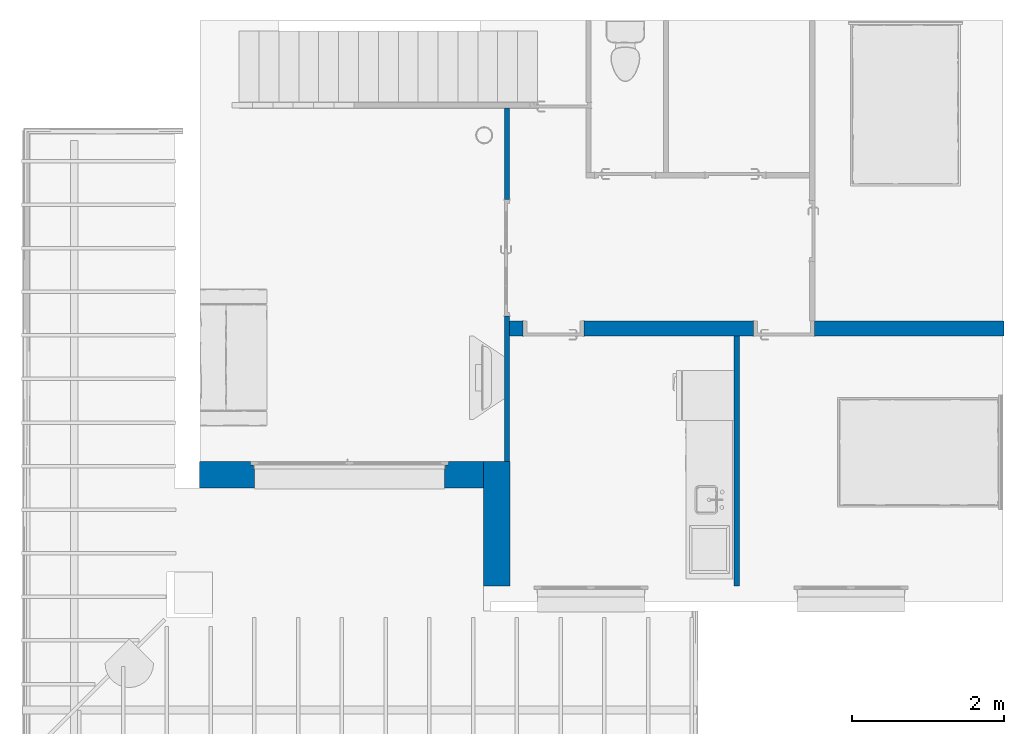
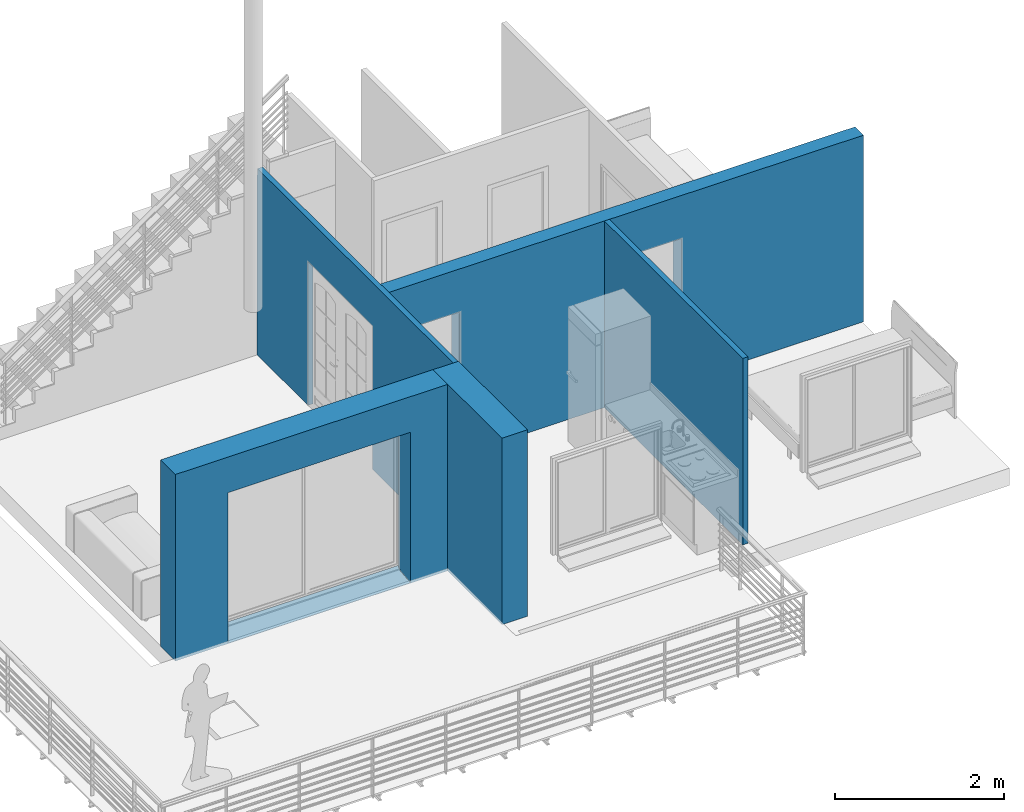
# One storey, part 2 of 15: 5 walls, 4 openings.
"""IFC2X3 building model written with IfcOpenShell, lengths in metres."""

from ifc_helpers import new_model, entity, si_unit, converted_unit, derived_unit, direction, frame, frame_2d, origin, place, context, subcontext, project, spatial, polyline, rectangle, extrude, clip, bounded_halfspace, faceted_brep, material, layer, layer_set, layer_usage, type_object, element, save


model = new_model("IFC2X3")

# Units and contexts
model_context = context("Model", 3, precision=1e-05, world=origin(), true_north=direction((6.12303176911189e-17, 1.0)))
body_context = subcontext(model_context, "Body", "Model", "MODEL_VIEW")
ifc_project = project(units=[si_unit("LENGTHUNIT", "METRE"), si_unit("AREAUNIT", "SQUARE_METRE"), si_unit("VOLUMEUNIT", "CUBIC_METRE"), converted_unit("PLANEANGLEUNIT", "DEGREE", entity("IfcRatioMeasure", 0.0174532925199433), si_unit("PLANEANGLEUNIT", "RADIAN"), dimensions=[0, 0, 0, 0, 0, 0, 0]), si_unit("MASSUNIT", "GRAM", prefix="KILO"), derived_unit("MASSDENSITYUNIT", [(si_unit("MASSUNIT", "GRAM", prefix="KILO"), 1), (si_unit("LENGTHUNIT", "METRE"), -3)]), derived_unit("MOMENTOFINERTIAUNIT", [(si_unit("LENGTHUNIT", "METRE"), 4)]), si_unit("TIMEUNIT", "SECOND"), si_unit("FREQUENCYUNIT", "HERTZ"), si_unit("THERMODYNAMICTEMPERATUREUNIT", "DEGREE_CELSIUS"), derived_unit("THERMALTRANSMITTANCEUNIT", [(si_unit("MASSUNIT", "GRAM", prefix="KILO"), 1), (si_unit("THERMODYNAMICTEMPERATUREUNIT", "KELVIN"), -1), (si_unit("TIMEUNIT", "SECOND"), -3)]), derived_unit("VOLUMETRICFLOWRATEUNIT", [(si_unit("LENGTHUNIT", "METRE"), 3), (si_unit("TIMEUNIT", "SECOND"), -1)]), si_unit("ELECTRICCURRENTUNIT", "AMPERE"), si_unit("ELECTRICVOLTAGEUNIT", "VOLT"), si_unit("POWERUNIT", "WATT"), si_unit("FORCEUNIT", "NEWTON", prefix="KILO"), si_unit("ILLUMINANCEUNIT", "LUX"), si_unit("LUMINOUSFLUXUNIT", "LUMEN"), si_unit("LUMINOUSINTENSITYUNIT", "CANDELA"), derived_unit("USERDEFINED", [(si_unit("MASSUNIT", "GRAM", prefix="KILO"), -1), (si_unit("LENGTHUNIT", "METRE"), -2), (si_unit("TIMEUNIT", "SECOND"), 3), (si_unit("LUMINOUSFLUXUNIT", "LUMEN"), 1)]), derived_unit("LINEARVELOCITYUNIT", [(si_unit("LENGTHUNIT", "METRE"), 1), (si_unit("TIMEUNIT", "SECOND"), -1)]), si_unit("PRESSUREUNIT", "PASCAL"), derived_unit("USERDEFINED", [(si_unit("LENGTHUNIT", "METRE"), -2), (si_unit("MASSUNIT", "GRAM", prefix="KILO"), 1), (si_unit("TIMEUNIT", "SECOND"), -2)]), derived_unit("LINEARFORCEUNIT", [(si_unit("MASSUNIT", "GRAM", prefix="KILO"), 1), (si_unit("LENGTHUNIT", "METRE"), 1), (si_unit("TIMEUNIT", "SECOND"), -2), (si_unit("LENGTHUNIT", "METRE"), -1)]), derived_unit("PLANARFORCEUNIT", [(si_unit("MASSUNIT", "GRAM", prefix="KILO"), 1), (si_unit("LENGTHUNIT", "METRE"), 1), (si_unit("TIMEUNIT", "SECOND"), -2), (si_unit("LENGTHUNIT", "METRE"), -2)])], contexts=[model_context])

# Site, building, storey
site_placement = place(None, origin())
site = spatial("IfcSite", under=ifc_project, at=site_placement, Name="Surface", CompositionType="ELEMENT")
building_placement = place(site_placement, origin())
building = spatial("IfcBuilding", under=site, at=building_placement, CompositionType="ELEMENT")
storey_placement = place(building_placement, frame((0.0, 0.0, 2.65)))
storey = spatial("IfcBuildingStorey", under=building, at=storey_placement, Name="Niveau étage", CompositionType="ELEMENT", Elevation=2.65)

# Wall
ifc_material_1 = material(Name="Maçonnerie - Isolant")
ifc_layer_1 = layer(ifc_material_1, 0.03)
ifc_material_2 = material(Name="Blocs béton manufacturés")
ifc_layer_2 = layer(ifc_material_2, 0.3)
ifc_layer_3 = layer(ifc_material_1, 0.02)
ifc_layer_set_1 = layer_set([ifc_layer_1, ifc_layer_2, ifc_layer_3], Name="Mur de base:Ext. Parpaing 35")
ifc_layer_usage_1 = layer_usage(ifc_layer_set_1, "AXIS2", "NEGATIVE", 0.175)
wall_type_1 = type_object("IfcWallType", Name="Mur de base:Ext. Parpaing 35", PredefinedType="STANDARD", material=ifc_layer_set_1)
wall_1_placement = place(storey_placement, frame((5.78781713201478, -0.425741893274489, 0.0), z_axis=(0.0, 0.0, 1.0), x_axis=(0.0, 1.0, 0.0)))
element("IfcWallStandardCase", 1, at=wall_1_placement, inside=storey, type_object=wall_type_1, material=ifc_layer_usage_1, Name="Mur de base:Ext. Parpaing 35", ObjectType="Mur de base:Ext. Parpaing 35", context=body_context, shape_type="Clipping", body=[
    clip(extrude(rectangle(XDim=1.63547673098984, YDim=0.350000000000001, at=frame_2d((0.817738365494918, -5.55111512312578e-17), x_axis=(-1.0, 0.0))), origin(), (0.0, 0.0, 1.0), 2.7), bounded_halfspace(frame((0.0, -0.174999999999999, 2.7), z_axis=(0.0, 0.0, -1.0), x_axis=(0.0, 1.0, 0.0)), True, frame((0.0, -0.174999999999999, 2.7)), polyline([(0.0, 0.0), (1.63547673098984, 0.0), (1.63547673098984, 0.00342105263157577), (1.63547673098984, 0.0734210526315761), (1.63547673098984, 0.349999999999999), (1.28547673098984, 0.349999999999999), (0.0, 0.349999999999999), (0.0, 0.0)]))),
])

# Wall, opening
ifc_layer_usage_2 = layer_usage(ifc_layer_set_1, "AXIS2", "NEGATIVE", 0.175)
wall_2_placement = place(storey_placement, frame((5.61281713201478, 1.03473483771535, 0.0), z_axis=(0.0, 0.0, 1.0), x_axis=(-1.0, 0.0, 0.0)))
wall_2 = element("IfcWallStandardCase", 2, at=wall_2_placement, inside=storey, type_object=wall_type_1, material=ifc_layer_usage_2, Name="Mur de base:Ext. Parpaing 35", ObjectType="Mur de base:Ext. Parpaing 35", context=body_context, shape_type="Clipping", body=[
    clip(extrude(rectangle(XDim=3.72842105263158, YDim=0.35, at=frame_2d((1.86421052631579, -4.16333634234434e-17), x_axis=(-1.0, 0.0))), origin(), (0.0, 0.0, 1.0), 2.7), bounded_halfspace(frame((0.0, -0.175, 2.7), z_axis=(0.0, 0.0, -1.0), x_axis=(1.0, 0.0, 0.0)), True, frame((0.0, -0.175, 2.7)), polyline([(0.0, 0.0), (3.72842105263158, 0.0), (3.72842105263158, 0.35), (0.0, 0.35), (0.0, 0.0)]))),
])
opening_1_placement = place(wall_2_placement, frame((3.05842105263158, 0.500000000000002, 0.0), z_axis=(0.0, 0.0, 1.0), x_axis=(-1.0, 0.0, 0.0)))
element("IfcOpeningElement", 3, at=opening_1_placement, cuts=wall_2, Name="Mur de base:Ext. Parpaing 35", ObjectType="Opening", context=body_context, shape_type="Brep", body=[
    faceted_brep([(2.55, 0.594999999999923, 0.0350000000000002), (2.55, 0.575, 0.0350000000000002), (2.55, 0.575, 2.185), (2.55, 0.0, 2.185), (2.55, 0.0, 0.0), (2.55, 0.261997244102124, 0.0), (0.0500000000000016, 1.0, 0.0350000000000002), (0.0500000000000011, 0.675000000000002, 0.0350000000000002), (0.0500000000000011, 0.675000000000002, 2.185), (0.0500000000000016, 1.0, 2.185), (2.55, 1.0, 0.0350000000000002), (2.55, 0.675000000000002, 0.0350000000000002), (2.6, 0.675000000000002, 0.0350000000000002), (2.6, 0.625000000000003, 0.0350000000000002), (2.56, 0.625000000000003, 0.0350000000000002), (2.56, 0.575, 0.0350000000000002), (0.0500000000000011, 0.594999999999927, 0.0349999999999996), (0.0500000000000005, 0.574999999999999, 0.0350000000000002), (0.0400000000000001, 0.574999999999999, 0.0350000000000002), (0.0400000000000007, 0.625000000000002, 0.0350000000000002), (0.0, 0.625000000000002, 0.0350000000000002), (0.0, 0.675000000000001, 0.0350000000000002), (2.55, 1.0, 2.185), (0.0500000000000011, 0.574999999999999, 2.185), (0.05, 0.0, 2.185), (0.05, 0.0, 0.0), (0.05, 0.261997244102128, 0.0), (2.6, 0.675000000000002, 2.235), (2.6, 0.625000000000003, 2.235), (0.0, 0.625000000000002, 2.235), (0.0399999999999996, 0.625000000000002, 2.195), (2.56, 0.625000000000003, 2.195), (2.56, 0.575, 2.195), (0.0399999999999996, 0.574999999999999, 2.195), (2.55, 0.675000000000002, 2.185), (0.0, 0.675000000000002, 2.235)], [[[0, 1, 2, 3, 4, 5]], [[6, 7, 8, 9]], [[10, 11, 12, 13, 14, 15, 1, 0, 16, 17, 18, 19, 20, 21, 7, 6]], [[10, 6, 9, 22]], [[3, 2, 23, 24]], [[3, 24, 25, 4]], [[4, 25, 26, 5]], [[5, 26, 16, 0]], [[12, 27, 28, 13]], [[13, 28, 29, 20, 19, 30, 31, 14]], [[14, 31, 32, 15]], [[15, 32, 33, 18, 17, 23, 2, 1]], [[11, 34, 8, 7, 21, 35, 27, 12]], [[27, 35, 29, 28]], [[30, 33, 32, 31]], [[29, 35, 21, 20]], [[19, 18, 33, 30]], [[9, 8, 34, 22]], [[24, 23, 17, 16, 26, 25]], [[22, 34, 11, 10]]]),
])

# Wall
ifc_material_3 = material(Name="Mur par défaut")
ifc_layer_4 = layer(ifc_material_3, 0.07)
ifc_layer_set_2 = layer_set([ifc_layer_4], Name="Mur de base:Int. Plâtre 7cm")
ifc_layer_usage_3 = layer_usage(ifc_layer_set_2, "AXIS2", "NEGATIVE", 0.035)
wall_type_2 = type_object("IfcWallType", Name="Mur de base:Int. Plâtre 7cm", PredefinedType="STANDARD", material=ifc_layer_set_2)
wall_3_placement = place(storey_placement, frame((8.94439607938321, 2.85425810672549, 0.0), z_axis=(0.0, 0.0, 1.0), x_axis=(0.0, -1.0, 0.0)))
element("IfcWallStandardCase", 4, at=wall_3_placement, inside=storey, type_object=wall_type_2, material=ifc_layer_usage_3, Name="Mur de base:Int. Plâtre 7cm", ObjectType="Mur de base:Int. Plâtre 7cm", context=body_context, shape_type="Clipping", body=[
    clip(extrude(rectangle(XDim=3.27999999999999, YDim=0.0699999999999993, at=frame_2d((1.64, 1.04083408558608e-17), x_axis=(-1.0, 0.0))), origin(), (0.0, 0.0, 1.0), 2.7), bounded_halfspace(frame((0.0, -0.0350000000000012, 2.7), z_axis=(0.0, 0.0, -1.0), x_axis=(0.0, -1.0, 0.0)), True, frame((0.0, -0.0350000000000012, 2.7)), polyline([(0.0, 0.0), (3.27999999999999, 0.0), (3.27999999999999, 0.0700000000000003), (0.0, 0.0700000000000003), (0.0, 0.0)]))),
])

# Wall, opening
ifc_layer_usage_4 = layer_usage(ifc_layer_set_2, "AXIS2", "NEGATIVE", 0.035)
wall_4_placement = place(storey_placement, frame((5.9243960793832, 1.20973483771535, 0.0), z_axis=(0.0, 0.0, 1.0), x_axis=(0.0, 1.0, 0.0)))
wall_4 = element("IfcWallStandardCase", 5, at=wall_4_placement, inside=storey, type_object=wall_type_2, material=ifc_layer_usage_4, Name="Mur de base:Int. Plâtre 7cm", ObjectType="Mur de base:Int. Plâtre 7cm", context=body_context, shape_type="Clipping", body=[
    clip(clip(extrude(rectangle(XDim=4.645, YDim=0.0699999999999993, at=frame_2d((2.3225, -8.32667268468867e-17), x_axis=(-1.0, 0.0))), origin(), (0.0, 0.0, 1.0), 2.7), bounded_halfspace(frame((0.0, -0.0350000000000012, 2.7), z_axis=(0.0, 0.0, -1.0), x_axis=(0.0, 1.0, 0.0)), True, frame((0.0, -0.0350000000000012, 2.7)), polyline([(0.0, 0.0), (1.64452326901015, 0.0), (1.84452326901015, 0.0), (4.63885258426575, 0.0), (4.63885258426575, 0.0700000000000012), (0.0, 0.0700000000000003), (0.0, 0.0)]))), bounded_halfspace(frame((4.63885258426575, -0.0350000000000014, 2.6), z_axis=(0.0, 0.0, 1.0), x_axis=(0.0, 1.0, 0.0)), False, frame((4.63885258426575, -0.0350000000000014, 2.6)), polyline([(0.0, 0.0), (0.00614741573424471, 0.0), (0.00614741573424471, 0.0700000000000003), (0.0, 0.0700000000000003), (0.0, 0.0)]))),
])
opening_2_placement = place(wall_4_placement, frame((1.90952326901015, -0.0350000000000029, 0.0)))
element("IfcOpeningElement", 6, at=opening_2_placement, cuts=wall_4, Name="Int. Double vitrée:Cintré 2x4 - 1.46 m x 2.04 m:1", ObjectType="Opening", context=body_context, shape_type="SweptSolid", body=[
    extrude(rectangle(XDim=2.07500000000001, YDim=1.53, at=frame_2d((1.03750000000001, 0.764999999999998), x_axis=(1.0, 0.0))), frame((0.0, 0.0, 0.0), z_axis=(0.0, 1.0, 0.0), x_axis=(0.0, 0.0, 1.0)), (0.0, 0.0, 1.0), 0.07),
])

# Wall, openings
ifc_layer_5 = layer(ifc_material_3, 0.2)
ifc_layer_set_3 = layer_set([ifc_layer_5], Name="Mur de base:Générique - Ext. 200 mm")
ifc_layer_usage_5 = layer_usage(ifc_layer_set_3, "AXIS2", "NEGATIVE", 0.1)
wall_type_3 = type_object("IfcWallType", Name="Mur de base:Générique - Ext. 200 mm", PredefinedType="STANDARD", material=ifc_layer_set_3)
wall_5_placement = place(storey_placement, frame((5.95939607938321, 2.9542581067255, 0.0)))
wall_5 = element("IfcWallStandardCase", 7, at=wall_5_placement, inside=storey, type_object=wall_type_3, material=ifc_layer_usage_5, Name="Mur de base:Générique - Ext. 200 mm", ObjectType="Mur de base:Générique - Ext. 200 mm", context=body_context, shape_type="Clipping", body=[
    clip(extrude(rectangle(XDim=6.495, YDim=0.2, at=frame_2d((3.2475, -7.63278329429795e-17), x_axis=(-1.0, 0.0))), origin(), (0.0, 0.0, 1.0), 2.7), bounded_halfspace(frame((0.0, -0.1, 2.7), z_axis=(0.0, 0.0, -1.0), x_axis=(-1.0, 0.0, 0.0)), True, frame((0.0, -0.1, 2.7)), polyline([(0.0, 0.0), (2.95, 0.0), (3.02, 0.0), (6.495, 0.0), (6.495, 0.2), (4.01, 0.2), (3.94, 0.2), (0.0, 0.2), (0.0, 0.0)]))),
])
opening_3_placement = place(wall_5_placement, frame((0.974999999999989, 0.0999999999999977, 0.0)))
element("IfcOpeningElement", 8, at=opening_3_placement, cuts=wall_5, Name="Int. Simple:PP (0.73m x 2.04m):1", ObjectType="Opening", context=body_context, shape_type="SweptSolid", body=[
    extrude(rectangle(XDim=2.075, YDim=0.799999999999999, at=frame_2d((1.0375, 0.4), x_axis=(1.0, 0.0))), frame((0.0, 0.0, 0.0), z_axis=(0.0, -1.0, 0.0), x_axis=(0.0, 0.0, 1.0)), (0.0, 0.0, 1.0), 0.2),
])
opening_4_placement = place(wall_5_placement, frame((4.00500000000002, 0.0999999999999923, 0.0)))
element("IfcOpeningElement", 9, at=opening_4_placement, cuts=wall_5, Name="Int. Simple:PP (0.73m x 2.04m):1", ObjectType="Opening", context=body_context, shape_type="SweptSolid", body=[
    extrude(rectangle(XDim=2.075, YDim=0.799999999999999, at=frame_2d((1.0375, 0.4), x_axis=(1.0, 0.0))), frame((0.0, 0.0, 0.0), z_axis=(0.0, -1.0, 0.0), x_axis=(0.0, 0.0, 1.0)), (0.0, 0.0, 1.0), 0.2),
])

save(model, "model.ifc")
